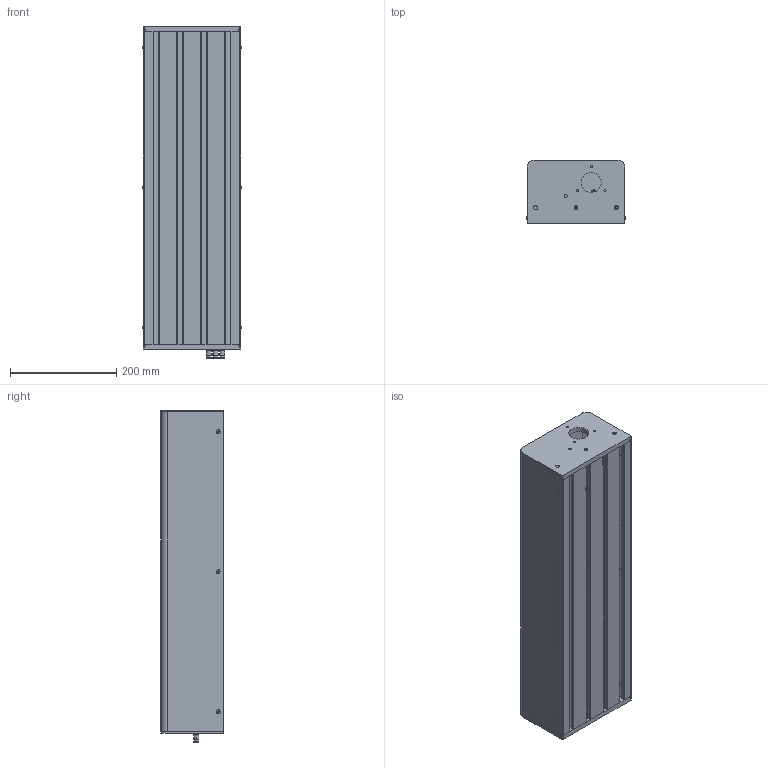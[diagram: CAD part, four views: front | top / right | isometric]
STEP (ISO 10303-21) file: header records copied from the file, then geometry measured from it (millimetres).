
FILE_DESCRIPTION (( 'STEP AP214' ), '1' );
FILE_NAME ('RBEC-38-1.4-10.6.STEP', '2017-03-06T17:06:08', ( '' ), ( '' ), 'SwSTEP 2.0', 'SolidWorks 2017', '' );
FILE_SCHEMA (( 'AUTOMOTIVE_DESIGN' ));
Length unit declared in the file: inch
Products named in the file (1): RBEC-38-1.4-10.6
Bounding box: 186.99 x 118.3 x 625.89 mm (x, y, z)
Volume: 2216323.4 mm3; surface area: 1018805.8 mm2
Topology: 22 solids, 22 shells, 1111 faces, 2848 edges, 1845 vertices
Faces by surface type: plane 533, cylinder 382, cone 152, torus 28, sphere 8, bspline 8
Entity records: 50975 total; most frequent: CARTESIAN_POINT 23489, DIRECTION 5658, ORIENTED_EDGE 5656, EDGE_CURVE 2828, AXIS2_PLACEMENT_3D 1978, VERTEX_POINT 1833, VECTOR 1702, LINE 1702
